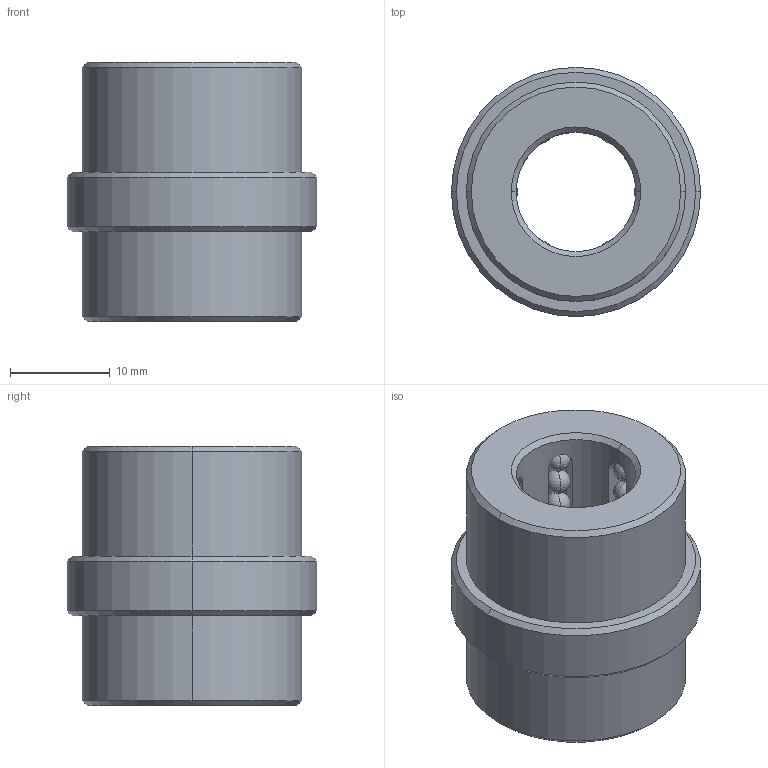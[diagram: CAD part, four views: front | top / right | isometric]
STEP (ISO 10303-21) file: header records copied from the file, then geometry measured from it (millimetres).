
FILE_DESCRIPTION((''),'2;1');
FILE_NAME('B844120917','2018-01-24T',('MANU'),(''),'PRO/ENGINEER BY PARAMETRIC TECHNOLOGY CORPORATION, 2012130','PRO/ENGINEER BY PARAMETRIC TECHNOLOGY CORPORATION, 2012130','');
FILE_SCHEMA(('CONFIG_CONTROL_DESIGN'));
Length unit declared in the file: millimetre
Products named in the file (1): B844120917
Bounding box: 25 x 25 x 26 mm (x, y, z)
Volume: 7192.6 mm3; surface area: 5107.3 mm2
Topology: 49 solids, 49 shells, 150 faces, 414 edges, 176 vertices
Faces by surface type: sphere 96, plane 22, cylinder 20, cone 12
Entity records: 3538 total; most frequent: CARTESIAN_POINT 718, DIRECTION 642, ORIENTED_EDGE 444, AXIS2_PLACEMENT_3D 286, EDGE_CURVE 222, VERTEX_POINT 176, EDGE_LOOP 158, FACE_OUTER_BOUND 150
